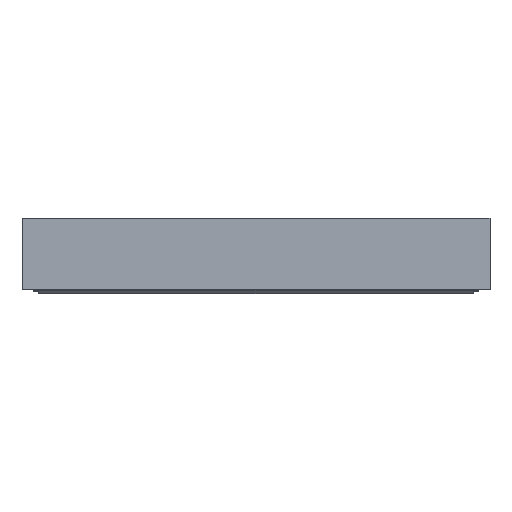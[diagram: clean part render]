
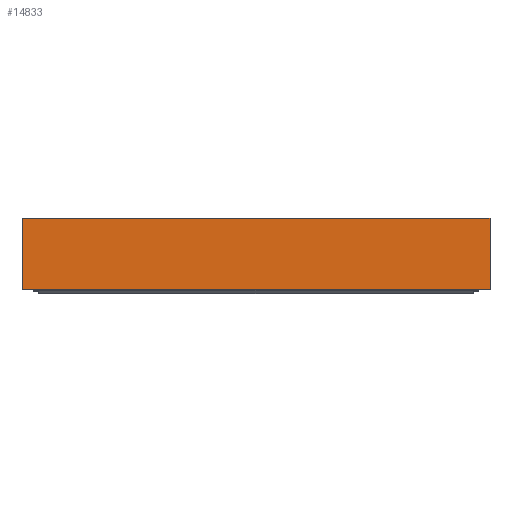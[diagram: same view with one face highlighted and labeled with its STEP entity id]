
A CAD part, left-side view. The second image highlights one B-rep face of the part: STEP entity #14833.
In plain terms, the highlighted planar face has unit normal (-1, 0, 0) as drawn and (1, 0, 0) by its records, which use the part's own axes.
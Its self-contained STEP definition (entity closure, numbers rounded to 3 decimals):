
#608=PLANE('',#16095);
#1325=FACE_OUTER_BOUND('',#2173,.T.);
#2173=EDGE_LOOP('',(#11412,#11413,#11414,#11415));
#3255=LINE('',#22154,#4860);
#3269=LINE('',#22181,#4874);
#3270=LINE('',#22184,#4875);
#3271=LINE('',#22185,#4876);
#4860=VECTOR('',#18459,10.);
#4874=VECTOR('',#18479,10.);
#4875=VECTOR('',#18482,10.);
#4876=VECTOR('',#18483,10.);
#6794=VERTEX_POINT('',#22151);
#6795=VERTEX_POINT('',#22153);
#6805=VERTEX_POINT('',#22179);
#6806=VERTEX_POINT('',#22183);
#8458=EDGE_CURVE('',#6794,#6795,#3255,.T.);
#8472=EDGE_CURVE('',#6794,#6805,#3269,.T.);
#8473=EDGE_CURVE('',#6806,#6805,#3270,.T.);
#8474=EDGE_CURVE('',#6795,#6806,#3271,.T.);
#11412=ORIENTED_EDGE('',*,*,#8472,.T.);
#11413=ORIENTED_EDGE('',*,*,#8473,.F.);
#11414=ORIENTED_EDGE('',*,*,#8474,.F.);
#11415=ORIENTED_EDGE('',*,*,#8458,.F.);
#14833=ADVANCED_FACE('',(#1325),#608,.T.);
#16095=AXIS2_PLACEMENT_3D('',#22182,#18480,#18481);
#18459=DIRECTION('',(0.,-1.,0.));
#18479=DIRECTION('',(0.,0.,1.));
#18480=DIRECTION('center_axis',(1.,0.,0.));
#18481=DIRECTION('ref_axis',(0.,1.,0.));
#18482=DIRECTION('',(0.,1.,0.));
#18483=DIRECTION('',(0.,0.,1.));
#22151=CARTESIAN_POINT('',(60.,16.,-52.5));
#22153=CARTESIAN_POINT('',(60.,0.,-52.5));
#22154=CARTESIAN_POINT('',(60.,0.,-52.5));
#22179=CARTESIAN_POINT('',(60.,16.,52.5));
#22181=CARTESIAN_POINT('',(60.,16.,0.));
#22182=CARTESIAN_POINT('Origin',(60.,0.,0.));
#22183=CARTESIAN_POINT('',(60.,0.,52.5));
#22184=CARTESIAN_POINT('',(60.,0.,52.5));
#22185=CARTESIAN_POINT('',(60.,0.,0.));
